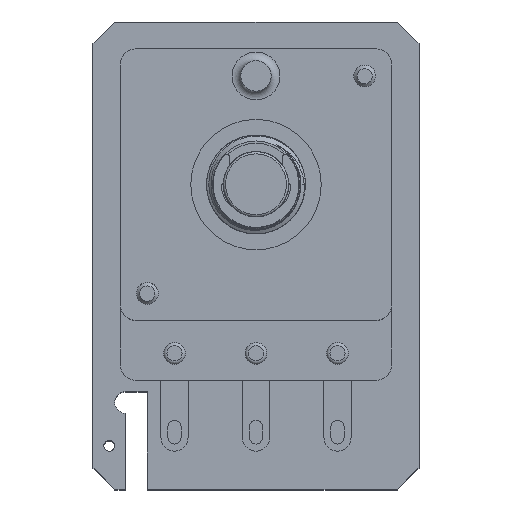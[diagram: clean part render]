
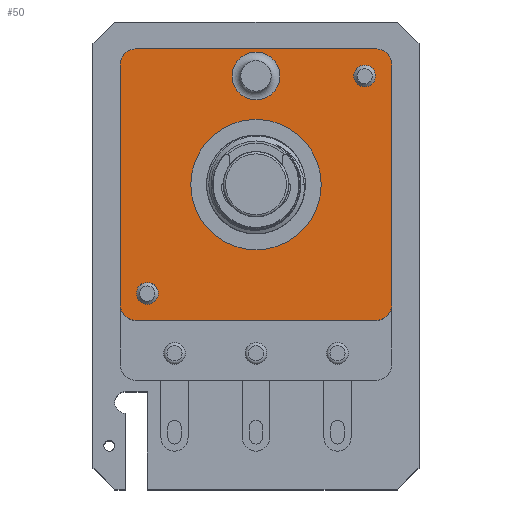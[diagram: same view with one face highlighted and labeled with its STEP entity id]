
A CAD part, top view. The second image highlights one B-rep face of the part: STEP entity #50.
In plain terms, the highlighted planar face has unit normal (0, 0, 1).
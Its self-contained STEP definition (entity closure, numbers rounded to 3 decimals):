
#21 = EDGE_CURVE('',#22,#22,#24,.T.);
#22 = VERTEX_POINT('',#23);
#23 = CARTESIAN_POINT('',(6.,0.,-1.));
#24 = CIRCLE('',#25,6.);
#25 = AXIS2_PLACEMENT_3D('',#26,#27,#28);
#26 = CARTESIAN_POINT('',(0.,0.,-1.));
#27 = DIRECTION('',(0.,0.,1.));
#28 = DIRECTION('',(1.,0.,-0.));
#50 = ADVANCED_FACE('',(#51,#121,#132,#135,#146),#157,.T.);
#51 = FACE_BOUND('',#52,.T.);
#52 = EDGE_LOOP('',(#53,#63,#72,#80,#89,#97,#106,#114));
#53 = ORIENTED_EDGE('',*,*,#54,.F.);
#54 = EDGE_CURVE('',#55,#57,#59,.T.);
#55 = VERTEX_POINT('',#56);
#56 = CARTESIAN_POINT('',(-12.5,-11.,-1.));
#57 = VERTEX_POINT('',#58);
#58 = CARTESIAN_POINT('',(-12.5,11.,-1.));
#59 = LINE('',#60,#61);
#60 = CARTESIAN_POINT('',(-12.5,-12.5,-1.));
#61 = VECTOR('',#62,1.);
#62 = DIRECTION('',(0.,1.,0.));
#63 = ORIENTED_EDGE('',*,*,#64,.T.);
#64 = EDGE_CURVE('',#55,#65,#67,.T.);
#65 = VERTEX_POINT('',#66);
#66 = CARTESIAN_POINT('',(-11.,-12.5,-1.));
#67 = CIRCLE('',#68,1.5);
#68 = AXIS2_PLACEMENT_3D('',#69,#70,#71);
#69 = CARTESIAN_POINT('',(-11.,-11.,-1.));
#70 = DIRECTION('',(-0.,0.,1.));
#71 = DIRECTION('',(0.,-1.,0.));
#72 = ORIENTED_EDGE('',*,*,#73,.T.);
#73 = EDGE_CURVE('',#65,#74,#76,.T.);
#74 = VERTEX_POINT('',#75);
#75 = CARTESIAN_POINT('',(11.,-12.5,-1.));
#76 = LINE('',#77,#78);
#77 = CARTESIAN_POINT('',(-12.5,-12.5,-1.));
#78 = VECTOR('',#79,1.);
#79 = DIRECTION('',(1.,0.,0.));
#80 = ORIENTED_EDGE('',*,*,#81,.T.);
#81 = EDGE_CURVE('',#74,#82,#84,.T.);
#82 = VERTEX_POINT('',#83);
#83 = CARTESIAN_POINT('',(12.5,-11.,-1.));
#84 = CIRCLE('',#85,1.5);
#85 = AXIS2_PLACEMENT_3D('',#86,#87,#88);
#86 = CARTESIAN_POINT('',(11.,-11.,-1.));
#87 = DIRECTION('',(-0.,0.,1.));
#88 = DIRECTION('',(0.,-1.,0.));
#89 = ORIENTED_EDGE('',*,*,#90,.T.);
#90 = EDGE_CURVE('',#82,#91,#93,.T.);
#91 = VERTEX_POINT('',#92);
#92 = CARTESIAN_POINT('',(12.5,11.,-1.));
#93 = LINE('',#94,#95);
#94 = CARTESIAN_POINT('',(12.5,-12.5,-1.));
#95 = VECTOR('',#96,1.);
#96 = DIRECTION('',(0.,1.,0.));
#97 = ORIENTED_EDGE('',*,*,#98,.F.);
#98 = EDGE_CURVE('',#99,#91,#101,.T.);
#99 = VERTEX_POINT('',#100);
#100 = CARTESIAN_POINT('',(11.,12.5,-1.));
#101 = CIRCLE('',#102,1.5);
#102 = AXIS2_PLACEMENT_3D('',#103,#104,#105);
#103 = CARTESIAN_POINT('',(11.,11.,-1.));
#104 = DIRECTION('',(-0.,-0.,-1.));
#105 = DIRECTION('',(0.,-1.,0.));
#106 = ORIENTED_EDGE('',*,*,#107,.F.);
#107 = EDGE_CURVE('',#108,#99,#110,.T.);
#108 = VERTEX_POINT('',#109);
#109 = CARTESIAN_POINT('',(-11.,12.5,-1.));
#110 = LINE('',#111,#112);
#111 = CARTESIAN_POINT('',(-12.5,12.5,-1.));
#112 = VECTOR('',#113,1.);
#113 = DIRECTION('',(1.,0.,0.));
#114 = ORIENTED_EDGE('',*,*,#115,.F.);
#115 = EDGE_CURVE('',#57,#108,#116,.T.);
#116 = CIRCLE('',#117,1.5);
#117 = AXIS2_PLACEMENT_3D('',#118,#119,#120);
#118 = CARTESIAN_POINT('',(-11.,11.,-1.));
#119 = DIRECTION('',(-0.,-0.,-1.));
#120 = DIRECTION('',(0.,-1.,0.));
#121 = FACE_BOUND('',#122,.T.);
#122 = EDGE_LOOP('',(#123));
#123 = ORIENTED_EDGE('',*,*,#124,.T.);
#124 = EDGE_CURVE('',#125,#125,#127,.T.);
#125 = VERTEX_POINT('',#126);
#126 = CARTESIAN_POINT('',(-9.,-10.,-1.));
#127 = CIRCLE('',#128,1.);
#128 = AXIS2_PLACEMENT_3D('',#129,#130,#131);
#129 = CARTESIAN_POINT('',(-10.,-10.,-1.));
#130 = DIRECTION('',(0.,0.,-1.));
#131 = DIRECTION('',(1.,0.,0.));
#132 = FACE_BOUND('',#133,.T.);
#133 = EDGE_LOOP('',(#134));
#134 = ORIENTED_EDGE('',*,*,#21,.F.);
#135 = FACE_BOUND('',#136,.T.);
#136 = EDGE_LOOP('',(#137));
#137 = ORIENTED_EDGE('',*,*,#138,.F.);
#138 = EDGE_CURVE('',#139,#139,#141,.T.);
#139 = VERTEX_POINT('',#140);
#140 = CARTESIAN_POINT('',(2.2,10.,-1.));
#141 = CIRCLE('',#142,2.2);
#142 = AXIS2_PLACEMENT_3D('',#143,#144,#145);
#143 = CARTESIAN_POINT('',(0.,10.,-1.));
#144 = DIRECTION('',(0.,0.,1.));
#145 = DIRECTION('',(1.,0.,-0.));
#146 = FACE_BOUND('',#147,.T.);
#147 = EDGE_LOOP('',(#148));
#148 = ORIENTED_EDGE('',*,*,#149,.T.);
#149 = EDGE_CURVE('',#150,#150,#152,.T.);
#150 = VERTEX_POINT('',#151);
#151 = CARTESIAN_POINT('',(11.,10.,-1.));
#152 = CIRCLE('',#153,1.);
#153 = AXIS2_PLACEMENT_3D('',#154,#155,#156);
#154 = CARTESIAN_POINT('',(10.,10.,-1.));
#155 = DIRECTION('',(0.,0.,-1.));
#156 = DIRECTION('',(1.,0.,0.));
#157 = PLANE('',#158);
#158 = AXIS2_PLACEMENT_3D('',#159,#160,#161);
#159 = CARTESIAN_POINT('',(-12.5,-12.5,-1.));
#160 = DIRECTION('',(0.,0.,1.));
#161 = DIRECTION('',(1.,0.,-0.));
